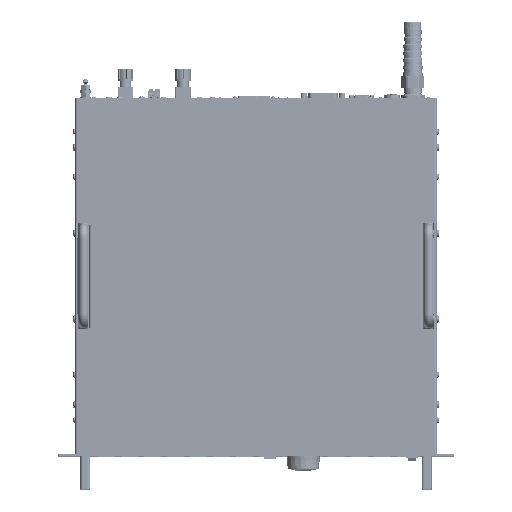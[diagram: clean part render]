
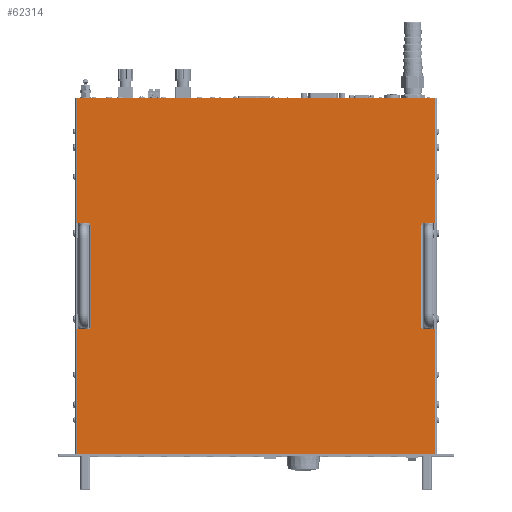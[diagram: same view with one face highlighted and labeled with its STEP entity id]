
A CAD part, top view. The second image highlights one B-rep face of the part: STEP entity #62314.
In plain terms, the highlighted planar face has unit normal (0, 0, 1).
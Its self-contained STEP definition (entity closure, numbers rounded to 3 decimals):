
#62314=ADVANCED_FACE('',(#128523),#128524,.F.);
#128523=FACE_OUTER_BOUND('',#230927,.T.);
#128524=PLANE('',#230928);
#230927=EDGE_LOOP('',(#406157,#406158,#406159,#406160,#406161,#406162,#406163,#406164,#406165,#406166,#406167,#406168,#406169,#406170,#406171,#406172,#406173,#406174,#406175,#406176));
#230928=AXIS2_PLACEMENT_3D('',#406177,#406178,#406179);
#406157=ORIENTED_EDGE('',*,*,#499633,.T.);
#406158=ORIENTED_EDGE('',*,*,#499653,.F.);
#406159=ORIENTED_EDGE('',*,*,#499654,.F.);
#406160=ORIENTED_EDGE('',*,*,#499297,.F.);
#406161=ORIENTED_EDGE('',*,*,#499619,.F.);
#406162=ORIENTED_EDGE('',*,*,#499282,.F.);
#406163=ORIENTED_EDGE('',*,*,#499608,.F.);
#406164=ORIENTED_EDGE('',*,*,#499655,.F.);
#406165=ORIENTED_EDGE('',*,*,#499651,.T.);
#406166=ORIENTED_EDGE('',*,*,#499646,.F.);
#406167=ORIENTED_EDGE('',*,*,#499643,.T.);
#406168=ORIENTED_EDGE('',*,*,#499656,.F.);
#406169=ORIENTED_EDGE('',*,*,#499584,.F.);
#406170=ORIENTED_EDGE('',*,*,#499272,.F.);
#406171=ORIENTED_EDGE('',*,*,#499573,.F.);
#406172=ORIENTED_EDGE('',*,*,#499292,.F.);
#406173=ORIENTED_EDGE('',*,*,#499657,.F.);
#406174=ORIENTED_EDGE('',*,*,#499658,.F.);
#406175=ORIENTED_EDGE('',*,*,#499630,.T.);
#406176=ORIENTED_EDGE('',*,*,#499638,.T.);
#406177=CARTESIAN_POINT('',(239.8,220.125,86.465));
#406178=DIRECTION('',(0.,0.,-1.0));
#406179=DIRECTION('',(1.0,0.,0.));
#499272=EDGE_CURVE('',#605824,#605826,#605827,.T.);
#499282=EDGE_CURVE('',#605842,#605844,#605845,.T.);
#499292=EDGE_CURVE('',#605860,#605862,#605863,.T.);
#499297=EDGE_CURVE('',#605869,#605871,#605872,.T.);
#499573=EDGE_CURVE('',#605862,#605824,#606302,.T.);
#499584=EDGE_CURVE('',#605826,#606317,#606318,.T.);
#499608=EDGE_CURVE('',#606350,#605842,#606352,.T.);
#499619=EDGE_CURVE('',#605844,#605869,#606367,.T.);
#499630=EDGE_CURVE('',#606378,#606381,#606383,.T.);
#499633=EDGE_CURVE('',#606388,#606385,#606389,.T.);
#499638=EDGE_CURVE('',#606381,#606388,#606394,.T.);
#499643=EDGE_CURVE('',#606400,#606398,#606401,.T.);
#499646=EDGE_CURVE('',#606400,#606404,#606405,.T.);
#499651=EDGE_CURVE('',#606410,#606404,#606412,.T.);
#499653=EDGE_CURVE('',#606414,#606385,#606415,.T.);
#499654=EDGE_CURVE('',#605871,#606414,#606416,.T.);
#499655=EDGE_CURVE('',#606410,#606350,#606417,.T.);
#499656=EDGE_CURVE('',#606317,#606398,#606418,.T.);
#499657=EDGE_CURVE('',#606419,#605860,#606420,.T.);
#499658=EDGE_CURVE('',#606378,#606419,#606421,.T.);
#605824=VERTEX_POINT('',#757586);
#605826=VERTEX_POINT('',#757588);
#605827=LINE('',#757589,#757590);
#605842=VERTEX_POINT('',#757608);
#605844=VERTEX_POINT('',#757610);
#605845=LINE('',#757611,#757612);
#605860=VERTEX_POINT('',#757630);
#605862=VERTEX_POINT('',#757632);
#605863=LINE('',#757633,#757634);
#605869=VERTEX_POINT('',#757641);
#605871=VERTEX_POINT('',#757643);
#605872=LINE('',#757644,#757645);
#606302=LINE('',#758196,#758197);
#606317=VERTEX_POINT('',#758217);
#606318=LINE('',#758218,#758219);
#606350=VERTEX_POINT('',#758265);
#606352=LINE('',#758268,#758269);
#606367=LINE('',#758289,#758290);
#606378=VERTEX_POINT('',#758305);
#606381=VERTEX_POINT('',#758309);
#606383=LINE('',#758311,#758312);
#606385=VERTEX_POINT('',#758314);
#606388=VERTEX_POINT('',#758318);
#606389=LINE('',#758319,#758320);
#606394=LINE('',#758325,#758326);
#606398=VERTEX_POINT('',#758331);
#606400=VERTEX_POINT('',#758334);
#606401=LINE('',#758335,#758336);
#606404=VERTEX_POINT('',#758339);
#606405=LINE('',#758340,#758341);
#606410=VERTEX_POINT('',#758346);
#606412=LINE('',#758349,#758350);
#606414=VERTEX_POINT('',#758352);
#606415=LINE('',#758353,#758354);
#606416=LINE('',#758355,#758356);
#606417=LINE('',#758357,#758358);
#606418=LINE('',#758359,#758360);
#606419=VERTEX_POINT('',#758361);
#606420=LINE('',#758362,#758363);
#606421=LINE('',#758364,#758365);
#757586=CARTESIAN_POINT('',(22.123,3.5,86.465));
#757588=CARTESIAN_POINT('',(22.123,155.5,86.465));
#757589=CARTESIAN_POINT('',(22.123,149.813,86.465));
#757590=VECTOR('',#858457,1.0);
#757608=CARTESIAN_POINT('',(22.123,284.75,86.465));
#757610=CARTESIAN_POINT('',(22.123,436.75,86.465));
#757611=CARTESIAN_POINT('',(22.123,290.438,86.465));
#757612=VECTOR('',#858473,1.0);
#757630=CARTESIAN_POINT('',(457.477,155.5,86.465));
#757632=CARTESIAN_POINT('',(457.477,3.5,86.465));
#757633=CARTESIAN_POINT('',(457.477,149.813,86.465));
#757634=VECTOR('',#858489,1.0);
#757641=CARTESIAN_POINT('',(457.477,436.75,86.465));
#757643=CARTESIAN_POINT('',(457.477,284.75,86.465));
#757644=CARTESIAN_POINT('',(457.477,290.438,86.465));
#757645=VECTOR('',#858497,1.0);
#758196=CARTESIAN_POINT('',(460.227,3.5,86.465));
#758197=VECTOR('',#858883,1.0);
#758217=CARTESIAN_POINT('',(37.373,155.5,86.465));
#758218=CARTESIAN_POINT('',(19.373,155.5,86.465));
#758219=VECTOR('',#858901,1.0);
#758265=CARTESIAN_POINT('',(37.373,284.75,86.465));
#758268=CARTESIAN_POINT('',(37.373,284.75,86.465));
#758269=VECTOR('',#858929,1.0);
#758289=CARTESIAN_POINT('',(19.373,436.75,86.465));
#758290=VECTOR('',#858947,1.0);
#758305=CARTESIAN_POINT('',(442.227,157.5,86.465));
#758309=CARTESIAN_POINT('',(440.477,157.5,86.465));
#758311=CARTESIAN_POINT('',(341.093,157.5,86.465));
#758312=VECTOR('',#858959,1.0);
#758314=CARTESIAN_POINT('',(442.227,282.75,86.465));
#758318=CARTESIAN_POINT('',(440.477,282.75,86.465));
#758319=CARTESIAN_POINT('',(341.093,282.75,86.465));
#758320=VECTOR('',#858961,1.0);
#758325=CARTESIAN_POINT('',(440.477,220.125,86.465));
#758326=VECTOR('',#858971,1.0);
#758331=CARTESIAN_POINT('',(37.373,157.5,86.465));
#758334=CARTESIAN_POINT('',(39.123,157.5,86.465));
#758335=CARTESIAN_POINT('',(138.507,157.5,86.465));
#758336=VECTOR('',#858974,1.0);
#758339=CARTESIAN_POINT('',(39.123,282.75,86.465));
#758340=CARTESIAN_POINT('',(39.123,220.125,86.465));
#758341=VECTOR('',#858978,1.0);
#758346=CARTESIAN_POINT('',(37.373,282.75,86.465));
#758349=CARTESIAN_POINT('',(138.507,282.75,86.465));
#758350=VECTOR('',#858986,1.0);
#758352=CARTESIAN_POINT('',(442.227,284.75,86.465));
#758353=CARTESIAN_POINT('',(442.227,284.75,86.465));
#758354=VECTOR('',#858987,1.0);
#758355=CARTESIAN_POINT('',(460.227,284.75,86.465));
#758356=VECTOR('',#858988,1.0);
#758357=CARTESIAN_POINT('',(37.373,282.75,86.465));
#758358=VECTOR('',#858989,1.0);
#758359=CARTESIAN_POINT('',(37.373,155.5,86.465));
#758360=VECTOR('',#858990,1.0);
#758361=CARTESIAN_POINT('',(442.227,155.5,86.465));
#758362=CARTESIAN_POINT('',(442.227,155.5,86.465));
#758363=VECTOR('',#858991,1.0);
#758364=CARTESIAN_POINT('',(442.227,157.5,86.465));
#758365=VECTOR('',#858992,1.0);
#858457=DIRECTION('',(0.0,1.0,0.));
#858473=DIRECTION('',(0.0,1.0,0.));
#858489=DIRECTION('',(0.0,-1.0,0.));
#858497=DIRECTION('',(0.0,-1.0,0.));
#858883=DIRECTION('',(-1.0,0.0,0.));
#858901=DIRECTION('',(1.0,0.0,0.0));
#858929=DIRECTION('',(-1.0,0.0,0.0));
#858947=DIRECTION('',(1.0,0.0,0.0));
#858959=DIRECTION('',(-1.0,0.0,0.0));
#858961=DIRECTION('',(1.0,0.0,0.0));
#858971=DIRECTION('',(0.0,1.0,0.));
#858974=DIRECTION('',(-1.0,0.0,0.0));
#858978=DIRECTION('',(0.0,1.0,0.));
#858986=DIRECTION('',(1.0,0.0,0.0));
#858987=DIRECTION('',(0.0,-1.0,0.));
#858988=DIRECTION('',(-1.0,0.0,0.0));
#858989=DIRECTION('',(0.0,1.0,0.));
#858990=DIRECTION('',(0.0,1.0,0.));
#858991=DIRECTION('',(1.0,0.0,0.0));
#858992=DIRECTION('',(0.0,-1.0,0.));
